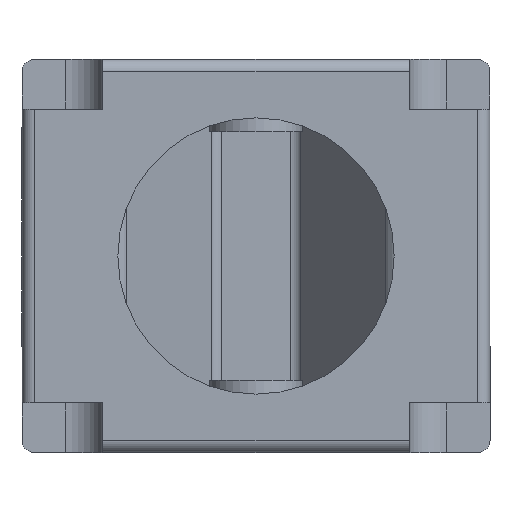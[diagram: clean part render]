
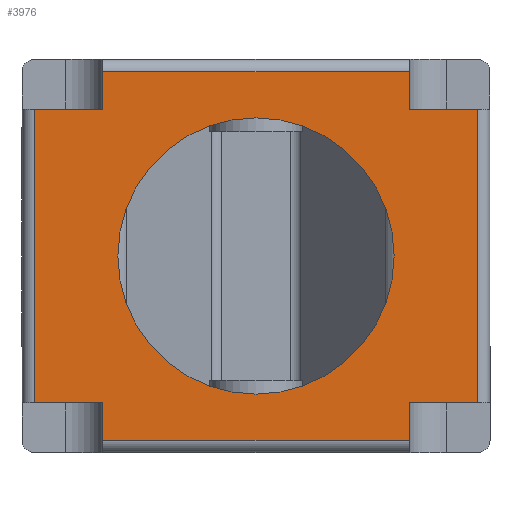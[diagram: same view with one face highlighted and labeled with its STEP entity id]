
A CAD part, left-side view. The second image highlights one B-rep face of the part: STEP entity #3976.
In plain terms, the highlighted planar face has unit normal (-1, 0, 0).
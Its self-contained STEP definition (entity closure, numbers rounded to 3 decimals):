
#55 = CARTESIAN_POINT ( 'NONE',  ( -0.77, 17.405, 34.362 ) ) ;
#229 = ORIENTED_EDGE ( 'NONE', *, *, #795, .T. ) ;
#230 = CARTESIAN_POINT ( 'NONE',  ( -0.77, 11.905, 10.762 ) ) ;
#262 = ORIENTED_EDGE ( 'NONE', *, *, #6531, .T. ) ;
#300 = LINE ( 'NONE', #3067, #5690 ) ;
#334 = LINE ( 'NONE', #4345, #2958 ) ;
#366 = CARTESIAN_POINT ( 'NONE',  ( -0.77, 47.505, 34.362 ) ) ;
#383 = FACE_OUTER_BOUND ( 'NONE', #2896, .T. ) ;
#414 = LINE ( 'NONE', #3658, #4255 ) ;
#423 = VERTEX_POINT ( 'NONE', #366 ) ;
#539 = DIRECTION ( 'NONE',  ( 0., 0., 1. ) ) ;
#540 = EDGE_CURVE ( 'NONE', #1921, #5341, #1234, .T. ) ;
#568 = ORIENTED_EDGE ( 'NONE', *, *, #540, .T. ) ;
#795 = EDGE_CURVE ( 'NONE', #4364, #6435, #2375, .T. ) ;
#931 = VERTEX_POINT ( 'NONE', #6265 ) ;
#993 = VERTEX_POINT ( 'NONE', #55 ) ;
#1234 = LINE ( 'NONE', #1653, #6599 ) ;
#1276 = EDGE_CURVE ( 'NONE', #3133, #3750, #300, .T. ) ;
#1326 = VECTOR ( 'NONE', #5314, 1000. ) ;
#1352 = CARTESIAN_POINT ( 'NONE',  ( -0.77, 29.705, 22.562 ) ) ;
#1411 = CIRCLE ( 'NONE', #4242, 11.1 ) ;
#1460 = DIRECTION ( 'NONE',  ( 0., 0., 1. ) ) ;
#1521 = CARTESIAN_POINT ( 'NONE',  ( -0.77, 17.405, 30.462 ) ) ;
#1539 = ORIENTED_EDGE ( 'NONE', *, *, #2791, .F. ) ;
#1543 = DIRECTION ( 'NONE',  ( 0., 0., 1. ) ) ;
#1587 = CARTESIAN_POINT ( 'NONE',  ( -0.77, 18.605, 22.562 ) ) ;
#1617 = CARTESIAN_POINT ( 'NONE',  ( -0.77, 40.805, 22.562 ) ) ;
#1653 = CARTESIAN_POINT ( 'NONE',  ( -0.77, 30.728, 10.762 ) ) ;
#1728 = VECTOR ( 'NONE', #1460, 1000. ) ;
#1770 = ORIENTED_EDGE ( 'NONE', *, *, #5900, .F. ) ;
#1841 = CARTESIAN_POINT ( 'NONE',  ( -0.77, 29.705, 22.562 ) ) ;
#1852 = CARTESIAN_POINT ( 'NONE',  ( -0.77, 11.905, 22.562 ) ) ;
#1870 = DIRECTION ( 'NONE',  ( 0., 1., 0. ) ) ;
#1921 = VERTEX_POINT ( 'NONE', #5924 ) ;
#2141 = LINE ( 'NONE', #2530, #6121 ) ;
#2158 = EDGE_CURVE ( 'NONE', #6731, #3844, #6623, .T. ) ;
#2182 = CARTESIAN_POINT ( 'NONE',  ( -0.77, 17.405, 37.362 ) ) ;
#2183 = DIRECTION ( 'NONE',  ( 0., -1., 0. ) ) ;
#2201 = CARTESIAN_POINT ( 'NONE',  ( -0.77, 38.605, 7.762 ) ) ;
#2217 = ORIENTED_EDGE ( 'NONE', *, *, #1276, .F. ) ;
#2266 = CARTESIAN_POINT ( 'NONE',  ( -0.77, 42.005, 14.662 ) ) ;
#2370 = DIRECTION ( 'NONE',  ( 0., 1., 0. ) ) ;
#2375 = CIRCLE ( 'NONE', #6641, 11.1 ) ;
#2384 = DIRECTION ( 'NONE',  ( -1., 0., 0. ) ) ;
#2484 = VECTOR ( 'NONE', #6690, 1000. ) ;
#2530 = CARTESIAN_POINT ( 'NONE',  ( -0.77, 47.505, 22.562 ) ) ;
#2545 = EDGE_CURVE ( 'NONE', #6483, #423, #6055, .T. ) ;
#2583 = EDGE_CURVE ( 'NONE', #4980, #993, #2808, .T. ) ;
#2633 = ORIENTED_EDGE ( 'NONE', *, *, #2545, .T. ) ;
#2701 = VECTOR ( 'NONE', #2785, 1000. ) ;
#2785 = DIRECTION ( 'NONE',  ( 0., 0., -1. ) ) ;
#2791 = EDGE_CURVE ( 'NONE', #931, #4251, #6699, .T. ) ;
#2808 = LINE ( 'NONE', #4085, #4015 ) ;
#2896 = EDGE_LOOP ( 'NONE', ( #568, #6558, #5175, #6365, #2217, #6646, #2633, #1770, #4141, #262, #1539, #4750 ) ) ;
#2935 = EDGE_CURVE ( 'NONE', #3133, #6483, #334, .T. ) ;
#2944 = LINE ( 'NONE', #6143, #1728 ) ;
#2956 = CARTESIAN_POINT ( 'NONE',  ( -0.77, 47.505, 10.762 ) ) ;
#2958 = VECTOR ( 'NONE', #4864, 1000. ) ;
#3067 = CARTESIAN_POINT ( 'NONE',  ( -0.77, 20.805, 37.362 ) ) ;
#3133 = VERTEX_POINT ( 'NONE', #5017 ) ;
#3134 = ORIENTED_EDGE ( 'NONE', *, *, #6639, .T. ) ;
#3522 = CARTESIAN_POINT ( 'NONE',  ( -0.77, 28.681, 34.362 ) ) ;
#3565 = DIRECTION ( 'NONE',  ( 0., 1., 0. ) ) ;
#3658 = CARTESIAN_POINT ( 'NONE',  ( -0.77, 11.905, 22.562 ) ) ;
#3750 = VERTEX_POINT ( 'NONE', #2182 ) ;
#3844 = VERTEX_POINT ( 'NONE', #6408 ) ;
#3862 = EDGE_LOOP ( 'NONE', ( #3134, #229 ) ) ;
#3976 = ADVANCED_FACE ( 'NONE', ( #383, #5934 ), #4967, .T. ) ;
#4015 = VECTOR ( 'NONE', #3565, 1000. ) ;
#4077 = LINE ( 'NONE', #2266, #2701 ) ;
#4085 = CARTESIAN_POINT ( 'NONE',  ( -0.77, 12.928, 34.362 ) ) ;
#4141 = ORIENTED_EDGE ( 'NONE', *, *, #2158, .T. ) ;
#4242 = AXIS2_PLACEMENT_3D ( 'NONE', #1841, #5492, #2370 ) ;
#4251 = VERTEX_POINT ( 'NONE', #6706 ) ;
#4255 = VECTOR ( 'NONE', #539, 1000. ) ;
#4264 = AXIS2_PLACEMENT_3D ( 'NONE', #1852, #2384, #6012 ) ;
#4345 = CARTESIAN_POINT ( 'NONE',  ( -0.77, 42.005, 30.462 ) ) ;
#4364 = VERTEX_POINT ( 'NONE', #1587 ) ;
#4728 = VECTOR ( 'NONE', #1543, 1000. ) ;
#4750 = ORIENTED_EDGE ( 'NONE', *, *, #6233, .T. ) ;
#4864 = DIRECTION ( 'NONE',  ( 0., 0., -1. ) ) ;
#4967 = PLANE ( 'NONE',  #4264 ) ;
#4980 = VERTEX_POINT ( 'NONE', #6665 ) ;
#4990 = DIRECTION ( 'NONE',  ( 1., 0., 0. ) ) ;
#5017 = CARTESIAN_POINT ( 'NONE',  ( -0.77, 42.005, 37.362 ) ) ;
#5085 = DIRECTION ( 'NONE',  ( 0., 1., 0. ) ) ;
#5175 = ORIENTED_EDGE ( 'NONE', *, *, #2583, .T. ) ;
#5314 = DIRECTION ( 'NONE',  ( 0., 1., 0. ) ) ;
#5341 = VERTEX_POINT ( 'NONE', #230 ) ;
#5492 = DIRECTION ( 'NONE',  ( 1., 0., 0. ) ) ;
#5690 = VECTOR ( 'NONE', #6178, 1000. ) ;
#5729 = VECTOR ( 'NONE', #5085, 1000. ) ;
#5844 = CARTESIAN_POINT ( 'NONE',  ( -0.77, 42.005, 34.362 ) ) ;
#5900 = EDGE_CURVE ( 'NONE', #6731, #423, #2141, .T. ) ;
#5924 = CARTESIAN_POINT ( 'NONE',  ( -0.77, 17.405, 10.762 ) ) ;
#5934 = FACE_BOUND ( 'NONE', #3862, .T. ) ;
#5941 = EDGE_CURVE ( 'NONE', #993, #3750, #5962, .T. ) ;
#5962 = LINE ( 'NONE', #1521, #4728 ) ;
#5979 = EDGE_CURVE ( 'NONE', #5341, #4980, #414, .T. ) ;
#6012 = DIRECTION ( 'NONE',  ( 0., -1., 0. ) ) ;
#6055 = LINE ( 'NONE', #3522, #5729 ) ;
#6121 = VECTOR ( 'NONE', #6682, 1000. ) ;
#6143 = CARTESIAN_POINT ( 'NONE',  ( -0.77, 17.405, 14.662 ) ) ;
#6170 = CARTESIAN_POINT ( 'NONE',  ( -0.77, 46.481, 10.762 ) ) ;
#6178 = DIRECTION ( 'NONE',  ( 0., -1., 0. ) ) ;
#6233 = EDGE_CURVE ( 'NONE', #931, #1921, #2944, .T. ) ;
#6265 = CARTESIAN_POINT ( 'NONE',  ( -0.77, 17.405, 7.762 ) ) ;
#6365 = ORIENTED_EDGE ( 'NONE', *, *, #5941, .T. ) ;
#6408 = CARTESIAN_POINT ( 'NONE',  ( -0.77, 42.005, 10.762 ) ) ;
#6435 = VERTEX_POINT ( 'NONE', #1617 ) ;
#6483 = VERTEX_POINT ( 'NONE', #5844 ) ;
#6531 = EDGE_CURVE ( 'NONE', #3844, #4251, #4077, .T. ) ;
#6558 = ORIENTED_EDGE ( 'NONE', *, *, #5979, .T. ) ;
#6599 = VECTOR ( 'NONE', #2183, 1000. ) ;
#6623 = LINE ( 'NONE', #6170, #2484 ) ;
#6639 = EDGE_CURVE ( 'NONE', #6435, #4364, #1411, .T. ) ;
#6641 = AXIS2_PLACEMENT_3D ( 'NONE', #1352, #4990, #1870 ) ;
#6646 = ORIENTED_EDGE ( 'NONE', *, *, #2935, .T. ) ;
#6665 = CARTESIAN_POINT ( 'NONE',  ( -0.77, 11.905, 34.362 ) ) ;
#6682 = DIRECTION ( 'NONE',  ( 0., 0., 1. ) ) ;
#6690 = DIRECTION ( 'NONE',  ( 0., -1., 0. ) ) ;
#6699 = LINE ( 'NONE', #2201, #1326 ) ;
#6706 = CARTESIAN_POINT ( 'NONE',  ( -0.77, 42.005, 7.762 ) ) ;
#6731 = VERTEX_POINT ( 'NONE', #2956 ) ;
